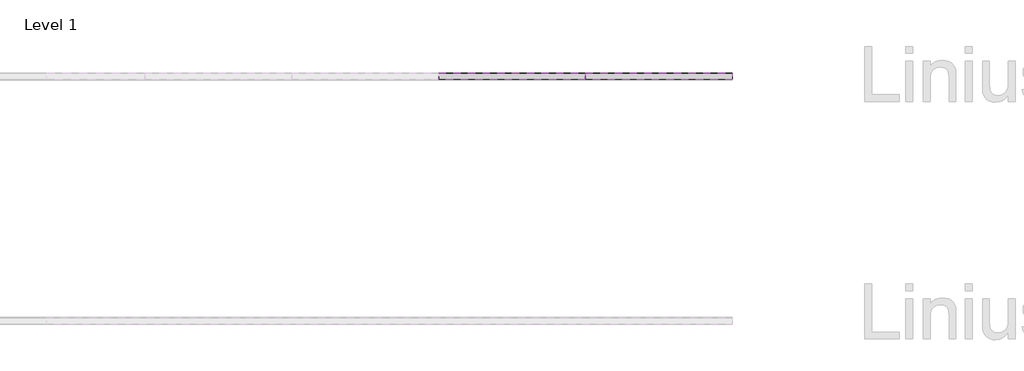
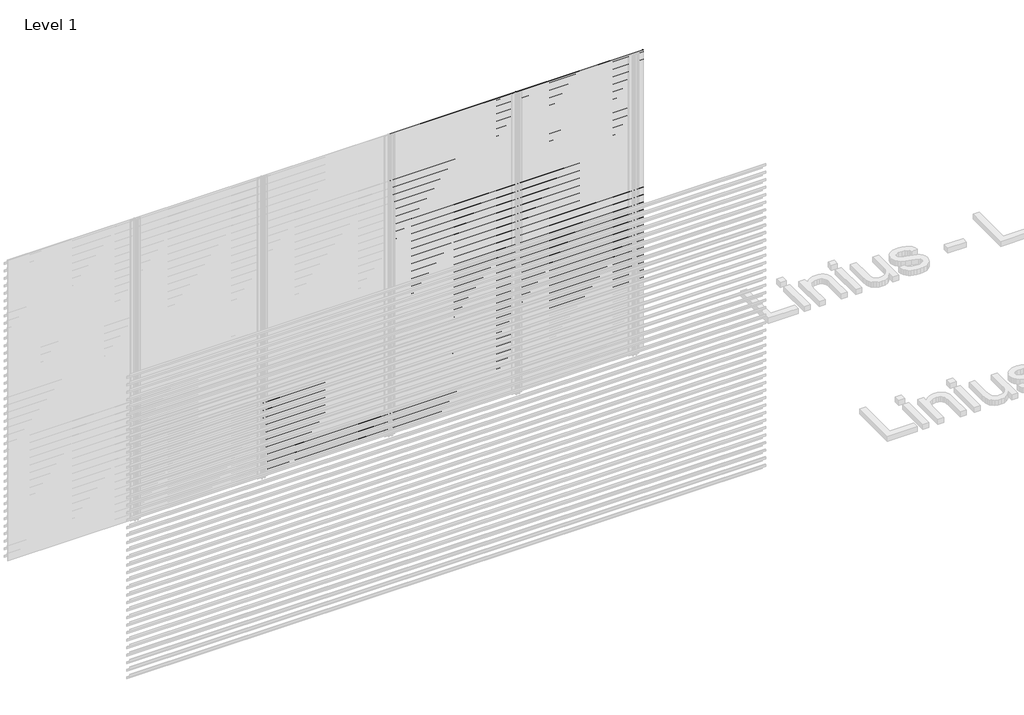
# One storey, part 7 of 55: 84 proxies.
"""IFC4 building model written with IfcOpenShell, lengths in millimetres."""

from ifc_helpers import new_model, si_unit, frame, origin, place, context, project, spatial, polyline, outline, extrude, element, save

model = new_model("IFC4")

# Units and contexts
model_context = context("Model", 3, world=origin())
ifc_project = project(units=[si_unit("LENGTHUNIT", "METRE", prefix="MILLI")], contexts=[model_context])

# Site, building, storey
site = spatial("IfcSite", under=ifc_project)
building = spatial("IfcBuilding", under=site)
storey = spatial("IfcBuildingStorey", under=building, Name="Level 1", Elevation=0.0)

# Proxies
placement = place(None, origin())
element("IfcBuildingElementProxy", 1, Name="Wall Sweeps", at=placement, inside=storey, context=model_context, shape_type="SweptSolid", body=[
    extrude(outline(polyline([(7044.0270068, 918.5), (7044.0270068, 898.5), (7042.7770068, 899.2216933), (7042.7770068, 917.7872415), (6989.0270068, 955.3158044), (6989.0270068, 975.0), (6990.2770068, 975.0), (6990.2770068, 956.0285629), (7044.0270068, 918.5)])), frame((2866.6208097, 0.0, 0.0), z_axis=(1.0, 0.0, 0.0), x_axis=(0.0, 1.0, 0.0)), (0.0, 0.0, 1.0), 1199.9999999),
])
element("IfcBuildingElementProxy", 2, Name="Wall Sweeps", at=placement, inside=storey, context=model_context, shape_type="SweptSolid", body=[
    extrude(outline(polyline([(7044.0270068, 843.5), (7044.0270068, 823.5), (7042.7770068, 824.2216933), (7042.7770068, 842.7872415), (6989.0270068, 880.3158044), (6989.0270068, 900.0), (6990.2770068, 900.0), (6990.2770068, 881.0285629), (7044.0270068, 843.5)])), frame((2866.6208097, 0.0, 0.0), z_axis=(1.0, 0.0, 0.0), x_axis=(0.0, 1.0, 0.0)), (0.0, 0.0, 1.0), 1199.9999999),
])
element("IfcBuildingElementProxy", 3, Name="Wall Sweeps", at=placement, inside=storey, context=model_context, shape_type="SweptSolid", body=[
    extrude(outline(polyline([(7044.0270068, 768.5), (7044.0270068, 748.5), (7042.7770068, 749.2216933), (7042.7770068, 767.7872415), (6989.0270068, 805.3158044), (6989.0270068, 825.0), (6990.2770068, 825.0), (6990.2770068, 806.0285629), (7044.0270068, 768.5)])), frame((2866.6208097, 0.0, 0.0), z_axis=(1.0, 0.0, 0.0), x_axis=(0.0, 1.0, 0.0)), (0.0, 0.0, 1.0), 1199.9999999),
])
element("IfcBuildingElementProxy", 4, Name="Wall Sweeps", at=placement, inside=storey, context=model_context, shape_type="SweptSolid", body=[
    extrude(outline(polyline([(7044.0270068, 693.5), (7044.0270068, 673.5), (7042.7770068, 674.2216933), (7042.7770068, 692.7872415), (6989.0270068, 730.3158044), (6989.0270068, 750.0), (6990.2770068, 750.0), (6990.2770068, 731.0285629), (7044.0270068, 693.5)])), frame((2866.6208097, 0.0, 0.0), z_axis=(1.0, 0.0, 0.0), x_axis=(0.0, 1.0, 0.0)), (0.0, 0.0, 1.0), 1199.9999999),
])
element("IfcBuildingElementProxy", 5, Name="Wall Sweeps", at=placement, inside=storey, context=model_context, shape_type="SweptSolid", body=[
    extrude(outline(polyline([(7044.0270068, 618.5), (7044.0270068, 598.5), (7042.7770068, 599.2216933), (7042.7770068, 617.7872415), (6989.0270068, 655.3158044), (6989.0270068, 675.0), (6990.2770068, 675.0), (6990.2770068, 656.0285629), (7044.0270068, 618.5)])), frame((2866.6208097, 0.0, 0.0), z_axis=(1.0, 0.0, 0.0), x_axis=(0.0, 1.0, 0.0)), (0.0, 0.0, 1.0), 1199.9999999),
])
element("IfcBuildingElementProxy", 6, Name="Wall Sweeps", at=placement, inside=storey, context=model_context, shape_type="SweptSolid", body=[
    extrude(outline(polyline([(7044.0270068, 543.5), (7044.0270068, 523.5), (7042.7770068, 524.2216933), (7042.7770068, 542.7872415), (6989.0270068, 580.3158044), (6989.0270068, 600.0), (6990.2770068, 600.0), (6990.2770068, 581.0285629), (7044.0270068, 543.5)])), frame((2866.6208097, 0.0, 0.0), z_axis=(1.0, 0.0, 0.0), x_axis=(0.0, 1.0, 0.0)), (0.0, 0.0, 1.0), 1199.9999999),
])
element("IfcBuildingElementProxy", 7, Name="Wall Sweeps", at=placement, inside=storey, context=model_context, shape_type="SweptSolid", body=[
    extrude(outline(polyline([(7044.0270068, 468.5), (7044.0270068, 448.5), (7042.7770068, 449.2216933), (7042.7770068, 467.7872415), (6989.0270068, 505.3158044), (6989.0270068, 525.0), (6990.2770068, 525.0), (6990.2770068, 506.0285629), (7044.0270068, 468.5)])), frame((2866.6208097, 0.0, 0.0), z_axis=(1.0, 0.0, 0.0), x_axis=(0.0, 1.0, 0.0)), (0.0, 0.0, 1.0), 1199.9999999),
])
element("IfcBuildingElementProxy", 8, Name="Wall Sweeps", at=placement, inside=storey, context=model_context, shape_type="SweptSolid", body=[
    extrude(outline(polyline([(7044.0270068, 393.5), (7044.0270068, 373.5), (7042.7770068, 374.2216933), (7042.7770068, 392.7872415), (6989.0270068, 430.3158044), (6989.0270068, 450.0), (6990.2770068, 450.0), (6990.2770068, 431.0285629), (7044.0270068, 393.5)])), frame((2866.6208097, 0.0, 0.0), z_axis=(1.0, 0.0, 0.0), x_axis=(0.0, 1.0, 0.0)), (0.0, 0.0, 1.0), 1199.9999999),
])
element("IfcBuildingElementProxy", 9, Name="Wall Sweeps", at=placement, inside=storey, context=model_context, shape_type="SweptSolid", body=[
    extrude(outline(polyline([(7044.0270068, 318.5), (7044.0270068, 298.5), (7042.7770068, 299.2216933), (7042.7770068, 317.7872415), (6989.0270068, 355.3158044), (6989.0270068, 375.0), (6990.2770068, 375.0), (6990.2770068, 356.0285629), (7044.0270068, 318.5)])), frame((2866.6208097, 0.0, 0.0), z_axis=(1.0, 0.0, 0.0), x_axis=(0.0, 1.0, 0.0)), (0.0, 0.0, 1.0), 1199.9999999),
])
element("IfcBuildingElementProxy", 10, Name="Wall Sweeps", at=placement, inside=storey, context=model_context, shape_type="SweptSolid", body=[
    extrude(outline(polyline([(7044.0270068, 243.5), (7044.0270068, 223.5), (7042.7770068, 224.2216933), (7042.7770068, 242.7872415), (6989.0270068, 280.3158044), (6989.0270068, 300.0), (6990.2770068, 300.0), (6990.2770068, 281.0285629), (7044.0270068, 243.5)])), frame((2866.6208097, 0.0, 0.0), z_axis=(1.0, 0.0, 0.0), x_axis=(0.0, 1.0, 0.0)), (0.0, 0.0, 1.0), 1199.9999999),
])
element("IfcBuildingElementProxy", 11, Name="Wall Sweeps", at=placement, inside=storey, context=model_context, shape_type="SweptSolid", body=[
    extrude(outline(polyline([(7044.0270068, 168.5), (7044.0270068, 148.5), (7042.7770068, 149.2216933), (7042.7770068, 167.7872415), (6989.0270068, 205.3158044), (6989.0270068, 225.0), (6990.2770068, 225.0), (6990.2770068, 206.0285629), (7044.0270068, 168.5)])), frame((2866.6208097, 0.0, 0.0), z_axis=(1.0, 0.0, 0.0), x_axis=(0.0, 1.0, 0.0)), (0.0, 0.0, 1.0), 1199.9999999),
])
element("IfcBuildingElementProxy", 12, Name="Wall Sweeps", at=placement, inside=storey, context=model_context, shape_type="SweptSolid", body=[
    extrude(outline(polyline([(7044.0270068, 93.5), (7044.0270068, 73.5), (7042.7770068, 74.2216933), (7042.7770068, 92.7872415), (6989.0270068, 130.3158044), (6989.0270068, 150.0), (6990.2770068, 150.0), (6990.2770068, 131.0285629), (7044.0270068, 93.5)])), frame((2866.6208097, 0.0, 0.0), z_axis=(1.0, 0.0, 0.0), x_axis=(0.0, 1.0, 0.0)), (0.0, 0.0, 1.0), 1199.9999999),
])
element("IfcBuildingElementProxy", 13, Name="Wall Sweeps", at=placement, inside=storey, context=model_context, shape_type="SweptSolid", body=[
    extrude(outline(polyline([(7044.0270068, 18.5), (7044.0270068, -1.5), (7042.7770068, -0.7783067), (7042.7770068, 17.7872415), (6989.0270068, 55.3158044), (6989.0270068, 75.0), (6990.2770068, 75.0), (6990.2770068, 56.0285629), (7044.0270068, 18.5)])), frame((2866.6208097, 0.0, 0.0), z_axis=(1.0, 0.0, 0.0), x_axis=(0.0, 1.0, 0.0)), (0.0, 0.0, 1.0), 1199.9999999),
])
element("IfcBuildingElementProxy", 14, Name="Wall Sweeps", at=placement, inside=storey, context=model_context, shape_type="SweptSolid", body=[
    extrude(outline(polyline([(7044.0270068, 2943.5), (7044.0270068, 2923.5), (7042.7770068, 2924.2216933), (7042.7770068, 2942.7872415), (6989.0270068, 2980.3158044), (6989.0270068, 3000.0), (6990.2770068, 3000.0), (6990.2770068, 2981.0285629), (7044.0270068, 2943.5)])), frame((5266.6208095, 0.0, 0.0), z_axis=(1.0, 0.0, 0.0), x_axis=(0.0, 1.0, 0.0)), (0.0, 0.0, 1.0), 1200.0000002),
])
element("IfcBuildingElementProxy", 15, Name="Wall Sweeps", at=placement, inside=storey, context=model_context, shape_type="SweptSolid", body=[
    extrude(outline(polyline([(7044.0270068, 2868.5), (7044.0270068, 2848.5), (7042.7770068, 2849.2216933), (7042.7770068, 2867.7872415), (6989.0270068, 2905.3158044), (6989.0270068, 2925.0), (6990.2770068, 2925.0), (6990.2770068, 2906.0285629), (7044.0270068, 2868.5)])), frame((5266.6208095, 0.0, 0.0), z_axis=(1.0, 0.0, 0.0), x_axis=(0.0, 1.0, 0.0)), (0.0, 0.0, 1.0), 1200.0000002),
])
element("IfcBuildingElementProxy", 16, Name="Wall Sweeps", at=placement, inside=storey, context=model_context, shape_type="SweptSolid", body=[
    extrude(outline(polyline([(7044.0270068, 2793.5), (7044.0270068, 2773.5), (7042.7770068, 2774.2216933), (7042.7770068, 2792.7872415), (6989.0270068, 2830.3158044), (6989.0270068, 2850.0), (6990.2770068, 2850.0), (6990.2770068, 2831.0285629), (7044.0270068, 2793.5)])), frame((5266.6208095, 0.0, 0.0), z_axis=(1.0, 0.0, 0.0), x_axis=(0.0, 1.0, 0.0)), (0.0, 0.0, 1.0), 1200.0000002),
])
element("IfcBuildingElementProxy", 17, Name="Wall Sweeps", at=placement, inside=storey, context=model_context, shape_type="SweptSolid", body=[
    extrude(outline(polyline([(7044.0270068, 2718.5), (7044.0270068, 2698.5), (7042.7770068, 2699.2216933), (7042.7770068, 2717.7872415), (6989.0270068, 2755.3158044), (6989.0270068, 2775.0), (6990.2770068, 2775.0), (6990.2770068, 2756.0285629), (7044.0270068, 2718.5)])), frame((5266.6208095, 0.0, 0.0), z_axis=(1.0, 0.0, 0.0), x_axis=(0.0, 1.0, 0.0)), (0.0, 0.0, 1.0), 1200.0000002),
])
element("IfcBuildingElementProxy", 18, Name="Wall Sweeps", at=placement, inside=storey, context=model_context, shape_type="SweptSolid", body=[
    extrude(outline(polyline([(7044.0270068, 2643.5), (7044.0270068, 2623.5), (7042.7770068, 2624.2216933), (7042.7770068, 2642.7872415), (6989.0270068, 2680.3158044), (6989.0270068, 2700.0), (6990.2770068, 2700.0), (6990.2770068, 2681.0285629), (7044.0270068, 2643.5)])), frame((5266.6208095, 0.0, 0.0), z_axis=(1.0, 0.0, 0.0), x_axis=(0.0, 1.0, 0.0)), (0.0, 0.0, 1.0), 1200.0000002),
])
element("IfcBuildingElementProxy", 19, Name="Wall Sweeps", at=placement, inside=storey, context=model_context, shape_type="SweptSolid", body=[
    extrude(outline(polyline([(7044.0270068, 2568.5), (7044.0270068, 2548.5), (7042.7770068, 2549.2216933), (7042.7770068, 2567.7872415), (6989.0270068, 2605.3158044), (6989.0270068, 2625.0), (6990.2770068, 2625.0), (6990.2770068, 2606.0285629), (7044.0270068, 2568.5)])), frame((5266.6208095, 0.0, 0.0), z_axis=(1.0, 0.0, 0.0), x_axis=(0.0, 1.0, 0.0)), (0.0, 0.0, 1.0), 1200.0000002),
])
element("IfcBuildingElementProxy", 20, Name="Wall Sweeps", at=placement, inside=storey, context=model_context, shape_type="SweptSolid", body=[
    extrude(outline(polyline([(7044.0270068, 2493.5), (7044.0270068, 2473.5), (7042.7770068, 2474.2216933), (7042.7770068, 2492.7872415), (6989.0270068, 2530.3158044), (6989.0270068, 2550.0), (6990.2770068, 2550.0), (6990.2770068, 2531.0285629), (7044.0270068, 2493.5)])), frame((5266.6208095, 0.0, 0.0), z_axis=(1.0, 0.0, 0.0), x_axis=(0.0, 1.0, 0.0)), (0.0, 0.0, 1.0), 1200.0000002),
])
element("IfcBuildingElementProxy", 21, Name="Wall Sweeps", at=placement, inside=storey, context=model_context, shape_type="SweptSolid", body=[
    extrude(outline(polyline([(7044.0270068, 2418.5), (7044.0270068, 2398.5), (7042.7770068, 2399.2216933), (7042.7770068, 2417.7872415), (6989.0270068, 2455.3158044), (6989.0270068, 2475.0), (6990.2770068, 2475.0), (6990.2770068, 2456.0285629), (7044.0270068, 2418.5)])), frame((5266.6208095, 0.0, 0.0), z_axis=(1.0, 0.0, 0.0), x_axis=(0.0, 1.0, 0.0)), (0.0, 0.0, 1.0), 1200.0000002),
])
element("IfcBuildingElementProxy", 22, Name="Wall Sweeps", at=placement, inside=storey, context=model_context, shape_type="SweptSolid", body=[
    extrude(outline(polyline([(7044.0270068, 2343.5), (7044.0270068, 2323.5), (7042.7770068, 2324.2216933), (7042.7770068, 2342.7872415), (6989.0270068, 2380.3158044), (6989.0270068, 2400.0), (6990.2770068, 2400.0), (6990.2770068, 2381.0285629), (7044.0270068, 2343.5)])), frame((5266.6208095, 0.0, 0.0), z_axis=(1.0, 0.0, 0.0), x_axis=(0.0, 1.0, 0.0)), (0.0, 0.0, 1.0), 1200.0000002),
])
element("IfcBuildingElementProxy", 23, Name="Wall Sweeps", at=placement, inside=storey, context=model_context, shape_type="SweptSolid", body=[
    extrude(outline(polyline([(7044.0270068, 2268.5), (7044.0270068, 2248.5), (7042.7770068, 2249.2216933), (7042.7770068, 2267.7872415), (6989.0270068, 2305.3158044), (6989.0270068, 2325.0), (6990.2770068, 2325.0), (6990.2770068, 2306.0285629), (7044.0270068, 2268.5)])), frame((5266.6208095, 0.0, 0.0), z_axis=(1.0, 0.0, 0.0), x_axis=(0.0, 1.0, 0.0)), (0.0, 0.0, 1.0), 1200.0000002),
])
element("IfcBuildingElementProxy", 24, Name="Wall Sweeps", at=placement, inside=storey, context=model_context, shape_type="SweptSolid", body=[
    extrude(outline(polyline([(7044.0270068, 2193.5), (7044.0270068, 2173.5), (7042.7770068, 2174.2216933), (7042.7770068, 2192.7872415), (6989.0270068, 2230.3158044), (6989.0270068, 2250.0), (6990.2770068, 2250.0), (6990.2770068, 2231.0285629), (7044.0270068, 2193.5)])), frame((5266.6208095, 0.0, 0.0), z_axis=(1.0, 0.0, 0.0), x_axis=(0.0, 1.0, 0.0)), (0.0, 0.0, 1.0), 1200.0000002),
])
element("IfcBuildingElementProxy", 25, Name="Wall Sweeps", at=placement, inside=storey, context=model_context, shape_type="SweptSolid", body=[
    extrude(outline(polyline([(7044.0270068, 2118.5), (7044.0270068, 2098.5), (7042.7770068, 2099.2216933), (7042.7770068, 2117.7872415), (6989.0270068, 2155.3158044), (6989.0270068, 2175.0), (6990.2770068, 2175.0), (6990.2770068, 2156.0285629), (7044.0270068, 2118.5)])), frame((5266.6208095, 0.0, 0.0), z_axis=(1.0, 0.0, 0.0), x_axis=(0.0, 1.0, 0.0)), (0.0, 0.0, 1.0), 1200.0000002),
])
element("IfcBuildingElementProxy", 26, Name="Wall Sweeps", at=placement, inside=storey, context=model_context, shape_type="SweptSolid", body=[
    extrude(outline(polyline([(7044.0270068, 2043.5), (7044.0270068, 2023.5), (7042.7770068, 2024.2216933), (7042.7770068, 2042.7872415), (6989.0270068, 2080.3158044), (6989.0270068, 2100.0), (6990.2770068, 2100.0), (6990.2770068, 2081.0285629), (7044.0270068, 2043.5)])), frame((5266.6208095, 0.0, 0.0), z_axis=(1.0, 0.0, 0.0), x_axis=(0.0, 1.0, 0.0)), (0.0, 0.0, 1.0), 1200.0000002),
])
element("IfcBuildingElementProxy", 27, Name="Wall Sweeps", at=placement, inside=storey, context=model_context, shape_type="SweptSolid", body=[
    extrude(outline(polyline([(7044.0270068, 1968.5), (7044.0270068, 1948.5), (7042.7770068, 1949.2216933), (7042.7770068, 1967.7872415), (6989.0270068, 2005.3158044), (6989.0270068, 2025.0), (6990.2770068, 2025.0), (6990.2770068, 2006.0285629), (7044.0270068, 1968.5)])), frame((5266.6208095, 0.0, 0.0), z_axis=(1.0, 0.0, 0.0), x_axis=(0.0, 1.0, 0.0)), (0.0, 0.0, 1.0), 1200.0000002),
])
element("IfcBuildingElementProxy", 28, Name="Wall Sweeps", at=placement, inside=storey, context=model_context, shape_type="SweptSolid", body=[
    extrude(outline(polyline([(7044.0270068, 1893.5), (7044.0270068, 1873.5), (7042.7770068, 1874.2216933), (7042.7770068, 1892.7872415), (6989.0270068, 1930.3158044), (6989.0270068, 1950.0), (6990.2770068, 1950.0), (6990.2770068, 1931.0285629), (7044.0270068, 1893.5)])), frame((5266.6208095, 0.0, 0.0), z_axis=(1.0, 0.0, 0.0), x_axis=(0.0, 1.0, 0.0)), (0.0, 0.0, 1.0), 1200.0000002),
])
element("IfcBuildingElementProxy", 29, Name="Wall Sweeps", at=placement, inside=storey, context=model_context, shape_type="SweptSolid", body=[
    extrude(outline(polyline([(7044.0270068, 1818.5), (7044.0270068, 1798.5), (7042.7770068, 1799.2216933), (7042.7770068, 1817.7872415), (6989.0270068, 1855.3158044), (6989.0270068, 1875.0), (6990.2770068, 1875.0), (6990.2770068, 1856.0285629), (7044.0270068, 1818.5)])), frame((5266.6208095, 0.0, 0.0), z_axis=(1.0, 0.0, 0.0), x_axis=(0.0, 1.0, 0.0)), (0.0, 0.0, 1.0), 1200.0000002),
])
element("IfcBuildingElementProxy", 30, Name="Wall Sweeps", at=placement, inside=storey, context=model_context, shape_type="SweptSolid", body=[
    extrude(outline(polyline([(7044.0270068, 1743.5), (7044.0270068, 1723.5), (7042.7770068, 1724.2216933), (7042.7770068, 1742.7872415), (6989.0270068, 1780.3158044), (6989.0270068, 1800.0), (6990.2770068, 1800.0), (6990.2770068, 1781.0285629), (7044.0270068, 1743.5)])), frame((5266.6208095, 0.0, 0.0), z_axis=(1.0, 0.0, 0.0), x_axis=(0.0, 1.0, 0.0)), (0.0, 0.0, 1.0), 1200.0000002),
])
element("IfcBuildingElementProxy", 31, Name="Wall Sweeps", at=placement, inside=storey, context=model_context, shape_type="SweptSolid", body=[
    extrude(outline(polyline([(7044.0270068, 1668.5), (7044.0270068, 1648.5), (7042.7770068, 1649.2216933), (7042.7770068, 1667.7872415), (6989.0270068, 1705.3158044), (6989.0270068, 1725.0), (6990.2770068, 1725.0), (6990.2770068, 1706.0285629), (7044.0270068, 1668.5)])), frame((5266.6208095, 0.0, 0.0), z_axis=(1.0, 0.0, 0.0), x_axis=(0.0, 1.0, 0.0)), (0.0, 0.0, 1.0), 1200.0000002),
])
element("IfcBuildingElementProxy", 32, Name="Wall Sweeps", at=placement, inside=storey, context=model_context, shape_type="SweptSolid", body=[
    extrude(outline(polyline([(7044.0270068, 1593.5), (7044.0270068, 1573.5), (7042.7770068, 1574.2216933), (7042.7770068, 1592.7872415), (6989.0270068, 1630.3158044), (6989.0270068, 1650.0), (6990.2770068, 1650.0), (6990.2770068, 1631.0285629), (7044.0270068, 1593.5)])), frame((5266.6208095, 0.0, 0.0), z_axis=(1.0, 0.0, 0.0), x_axis=(0.0, 1.0, 0.0)), (0.0, 0.0, 1.0), 1200.0000002),
])
element("IfcBuildingElementProxy", 33, Name="Wall Sweeps", at=placement, inside=storey, context=model_context, shape_type="SweptSolid", body=[
    extrude(outline(polyline([(7044.0270068, 1518.5), (7044.0270068, 1498.5), (7042.7770068, 1499.2216933), (7042.7770068, 1517.7872415), (6989.0270068, 1555.3158044), (6989.0270068, 1575.0), (6990.2770068, 1575.0), (6990.2770068, 1556.0285629), (7044.0270068, 1518.5)])), frame((5266.6208095, 0.0, 0.0), z_axis=(1.0, 0.0, 0.0), x_axis=(0.0, 1.0, 0.0)), (0.0, 0.0, 1.0), 1200.0000002),
])
element("IfcBuildingElementProxy", 34, Name="Wall Sweeps", at=placement, inside=storey, context=model_context, shape_type="SweptSolid", body=[
    extrude(outline(polyline([(7044.0270068, 1443.5), (7044.0270068, 1423.5), (7042.7770068, 1424.2216933), (7042.7770068, 1442.7872415), (6989.0270068, 1480.3158044), (6989.0270068, 1500.0), (6990.2770068, 1500.0), (6990.2770068, 1481.0285629), (7044.0270068, 1443.5)])), frame((5266.6208095, 0.0, 0.0), z_axis=(1.0, 0.0, 0.0), x_axis=(0.0, 1.0, 0.0)), (0.0, 0.0, 1.0), 1200.0000002),
])
element("IfcBuildingElementProxy", 35, Name="Wall Sweeps", at=placement, inside=storey, context=model_context, shape_type="SweptSolid", body=[
    extrude(outline(polyline([(7044.0270068, 1368.5), (7044.0270068, 1348.5), (7042.7770068, 1349.2216933), (7042.7770068, 1367.7872415), (6989.0270068, 1405.3158044), (6989.0270068, 1425.0), (6990.2770068, 1425.0), (6990.2770068, 1406.0285629), (7044.0270068, 1368.5)])), frame((5266.6208095, 0.0, 0.0), z_axis=(1.0, 0.0, 0.0), x_axis=(0.0, 1.0, 0.0)), (0.0, 0.0, 1.0), 1200.0000002),
])
element("IfcBuildingElementProxy", 36, Name="Wall Sweeps", at=placement, inside=storey, context=model_context, shape_type="SweptSolid", body=[
    extrude(outline(polyline([(7044.0270068, 1293.5), (7044.0270068, 1273.5), (7042.7770068, 1274.2216933), (7042.7770068, 1292.7872415), (6989.0270068, 1330.3158044), (6989.0270068, 1350.0), (6990.2770068, 1350.0), (6990.2770068, 1331.0285629), (7044.0270068, 1293.5)])), frame((5266.6208095, 0.0, 0.0), z_axis=(1.0, 0.0, 0.0), x_axis=(0.0, 1.0, 0.0)), (0.0, 0.0, 1.0), 1200.0000002),
])
element("IfcBuildingElementProxy", 37, Name="Wall Sweeps", at=placement, inside=storey, context=model_context, shape_type="SweptSolid", body=[
    extrude(outline(polyline([(7044.0270068, 1218.5), (7044.0270068, 1198.5), (7042.7770068, 1199.2216933), (7042.7770068, 1217.7872415), (6989.0270068, 1255.3158044), (6989.0270068, 1275.0), (6990.2770068, 1275.0), (6990.2770068, 1256.0285629), (7044.0270068, 1218.5)])), frame((5266.6208095, 0.0, 0.0), z_axis=(1.0, 0.0, 0.0), x_axis=(0.0, 1.0, 0.0)), (0.0, 0.0, 1.0), 1200.0000002),
])
element("IfcBuildingElementProxy", 38, Name="Wall Sweeps", at=placement, inside=storey, context=model_context, shape_type="SweptSolid", body=[
    extrude(outline(polyline([(7044.0270068, 1143.5), (7044.0270068, 1123.5), (7042.7770068, 1124.2216933), (7042.7770068, 1142.7872415), (6989.0270068, 1180.3158044), (6989.0270068, 1200.0), (6990.2770068, 1200.0), (6990.2770068, 1181.0285629), (7044.0270068, 1143.5)])), frame((5266.6208095, 0.0, 0.0), z_axis=(1.0, 0.0, 0.0), x_axis=(0.0, 1.0, 0.0)), (0.0, 0.0, 1.0), 1200.0000002),
])
element("IfcBuildingElementProxy", 39, Name="Wall Sweeps", at=placement, inside=storey, context=model_context, shape_type="SweptSolid", body=[
    extrude(outline(polyline([(7044.0270068, 1068.5), (7044.0270068, 1048.5), (7042.7770068, 1049.2216933), (7042.7770068, 1067.7872415), (6989.0270068, 1105.3158044), (6989.0270068, 1125.0), (6990.2770068, 1125.0), (6990.2770068, 1106.0285629), (7044.0270068, 1068.5)])), frame((5266.6208095, 0.0, 0.0), z_axis=(1.0, 0.0, 0.0), x_axis=(0.0, 1.0, 0.0)), (0.0, 0.0, 1.0), 1200.0000002),
])
element("IfcBuildingElementProxy", 40, Name="Wall Sweeps", at=placement, inside=storey, context=model_context, shape_type="SweptSolid", body=[
    extrude(outline(polyline([(7044.0270068, 993.5), (7044.0270068, 973.5), (7042.7770068, 974.2216933), (7042.7770068, 992.7872415), (6989.0270068, 1030.3158044), (6989.0270068, 1050.0), (6990.2770068, 1050.0), (6990.2770068, 1031.0285629), (7044.0270068, 993.5)])), frame((5266.6208095, 0.0, 0.0), z_axis=(1.0, 0.0, 0.0), x_axis=(0.0, 1.0, 0.0)), (0.0, 0.0, 1.0), 1200.0000002),
])
element("IfcBuildingElementProxy", 41, Name="Wall Sweeps", at=placement, inside=storey, context=model_context, shape_type="SweptSolid", body=[
    extrude(outline(polyline([(7044.0270068, 918.5), (7044.0270068, 898.5), (7042.7770068, 899.2216933), (7042.7770068, 917.7872415), (6989.0270068, 955.3158044), (6989.0270068, 975.0), (6990.2770068, 975.0), (6990.2770068, 956.0285629), (7044.0270068, 918.5)])), frame((5266.6208095, 0.0, 0.0), z_axis=(1.0, 0.0, 0.0), x_axis=(0.0, 1.0, 0.0)), (0.0, 0.0, 1.0), 1200.0000002),
])
element("IfcBuildingElementProxy", 42, Name="Wall Sweeps", at=placement, inside=storey, context=model_context, shape_type="SweptSolid", body=[
    extrude(outline(polyline([(7044.0270068, 843.5), (7044.0270068, 823.5), (7042.7770068, 824.2216933), (7042.7770068, 842.7872415), (6989.0270068, 880.3158044), (6989.0270068, 900.0), (6990.2770068, 900.0), (6990.2770068, 881.0285629), (7044.0270068, 843.5)])), frame((5266.6208095, 0.0, 0.0), z_axis=(1.0, 0.0, 0.0), x_axis=(0.0, 1.0, 0.0)), (0.0, 0.0, 1.0), 1200.0000002),
])
element("IfcBuildingElementProxy", 43, Name="Wall Sweeps", at=placement, inside=storey, context=model_context, shape_type="SweptSolid", body=[
    extrude(outline(polyline([(7044.0270068, 768.5), (7044.0270068, 748.5), (7042.7770068, 749.2216933), (7042.7770068, 767.7872415), (6989.0270068, 805.3158044), (6989.0270068, 825.0), (6990.2770068, 825.0), (6990.2770068, 806.0285629), (7044.0270068, 768.5)])), frame((5266.6208095, 0.0, 0.0), z_axis=(1.0, 0.0, 0.0), x_axis=(0.0, 1.0, 0.0)), (0.0, 0.0, 1.0), 1200.0000002),
])
element("IfcBuildingElementProxy", 44, Name="Wall Sweeps", at=placement, inside=storey, context=model_context, shape_type="SweptSolid", body=[
    extrude(outline(polyline([(7044.0270068, 693.5), (7044.0270068, 673.5), (7042.7770068, 674.2216933), (7042.7770068, 692.7872415), (6989.0270068, 730.3158044), (6989.0270068, 750.0), (6990.2770068, 750.0), (6990.2770068, 731.0285629), (7044.0270068, 693.5)])), frame((5266.6208095, 0.0, 0.0), z_axis=(1.0, 0.0, 0.0), x_axis=(0.0, 1.0, 0.0)), (0.0, 0.0, 1.0), 1200.0000002),
])
element("IfcBuildingElementProxy", 45, Name="Wall Sweeps", at=placement, inside=storey, context=model_context, shape_type="SweptSolid", body=[
    extrude(outline(polyline([(7044.0270068, 2943.5), (7044.0270068, 2923.5), (7042.7770068, 2924.2216933), (7042.7770068, 2942.7872415), (6989.0270068, 2980.3158044), (6989.0270068, 3000.0), (6990.2770068, 3000.0), (6990.2770068, 2981.0285629), (7044.0270068, 2943.5)])), frame((4066.6208096, 0.0, 0.0), z_axis=(1.0, 0.0, 0.0), x_axis=(0.0, 1.0, 0.0)), (0.0, 0.0, 1.0), 1199.9999999),
])
element("IfcBuildingElementProxy", 46, Name="Wall Sweeps", at=placement, inside=storey, context=model_context, shape_type="SweptSolid", body=[
    extrude(outline(polyline([(7044.0270068, 2868.5), (7044.0270068, 2848.5), (7042.7770068, 2849.2216933), (7042.7770068, 2867.7872415), (6989.0270068, 2905.3158044), (6989.0270068, 2925.0), (6990.2770068, 2925.0), (6990.2770068, 2906.0285629), (7044.0270068, 2868.5)])), frame((4066.6208096, 0.0, 0.0), z_axis=(1.0, 0.0, 0.0), x_axis=(0.0, 1.0, 0.0)), (0.0, 0.0, 1.0), 1199.9999999),
])
element("IfcBuildingElementProxy", 47, Name="Wall Sweeps", at=placement, inside=storey, context=model_context, shape_type="SweptSolid", body=[
    extrude(outline(polyline([(7044.0270068, 2793.5), (7044.0270068, 2773.5), (7042.7770068, 2774.2216933), (7042.7770068, 2792.7872415), (6989.0270068, 2830.3158044), (6989.0270068, 2850.0), (6990.2770068, 2850.0), (6990.2770068, 2831.0285629), (7044.0270068, 2793.5)])), frame((4066.6208096, 0.0, 0.0), z_axis=(1.0, 0.0, 0.0), x_axis=(0.0, 1.0, 0.0)), (0.0, 0.0, 1.0), 1199.9999999),
])
element("IfcBuildingElementProxy", 48, Name="Wall Sweeps", at=placement, inside=storey, context=model_context, shape_type="SweptSolid", body=[
    extrude(outline(polyline([(7044.0270068, 2718.5), (7044.0270068, 2698.5), (7042.7770068, 2699.2216933), (7042.7770068, 2717.7872415), (6989.0270068, 2755.3158044), (6989.0270068, 2775.0), (6990.2770068, 2775.0), (6990.2770068, 2756.0285629), (7044.0270068, 2718.5)])), frame((4066.6208096, 0.0, 0.0), z_axis=(1.0, 0.0, 0.0), x_axis=(0.0, 1.0, 0.0)), (0.0, 0.0, 1.0), 1199.9999999),
])
element("IfcBuildingElementProxy", 49, Name="Wall Sweeps", at=placement, inside=storey, context=model_context, shape_type="SweptSolid", body=[
    extrude(outline(polyline([(7044.0270068, 2643.5), (7044.0270068, 2623.5), (7042.7770068, 2624.2216933), (7042.7770068, 2642.7872415), (6989.0270068, 2680.3158044), (6989.0270068, 2700.0), (6990.2770068, 2700.0), (6990.2770068, 2681.0285629), (7044.0270068, 2643.5)])), frame((4066.6208096, 0.0, 0.0), z_axis=(1.0, 0.0, 0.0), x_axis=(0.0, 1.0, 0.0)), (0.0, 0.0, 1.0), 1199.9999999),
])
element("IfcBuildingElementProxy", 50, Name="Wall Sweeps", at=placement, inside=storey, context=model_context, shape_type="SweptSolid", body=[
    extrude(outline(polyline([(7044.0270068, 2568.5), (7044.0270068, 2548.5), (7042.7770068, 2549.2216933), (7042.7770068, 2567.7872415), (6989.0270068, 2605.3158044), (6989.0270068, 2625.0), (6990.2770068, 2625.0), (6990.2770068, 2606.0285629), (7044.0270068, 2568.5)])), frame((4066.6208096, 0.0, 0.0), z_axis=(1.0, 0.0, 0.0), x_axis=(0.0, 1.0, 0.0)), (0.0, 0.0, 1.0), 1199.9999999),
])
element("IfcBuildingElementProxy", 51, Name="Wall Sweeps", at=placement, inside=storey, context=model_context, shape_type="SweptSolid", body=[
    extrude(outline(polyline([(7044.0270068, 2493.5), (7044.0270068, 2473.5), (7042.7770068, 2474.2216933), (7042.7770068, 2492.7872415), (6989.0270068, 2530.3158044), (6989.0270068, 2550.0), (6990.2770068, 2550.0), (6990.2770068, 2531.0285629), (7044.0270068, 2493.5)])), frame((4066.6208096, 0.0, 0.0), z_axis=(1.0, 0.0, 0.0), x_axis=(0.0, 1.0, 0.0)), (0.0, 0.0, 1.0), 1199.9999999),
])
element("IfcBuildingElementProxy", 52, Name="Wall Sweeps", at=placement, inside=storey, context=model_context, shape_type="SweptSolid", body=[
    extrude(outline(polyline([(7044.0270068, 2418.5), (7044.0270068, 2398.5), (7042.7770068, 2399.2216933), (7042.7770068, 2417.7872415), (6989.0270068, 2455.3158044), (6989.0270068, 2475.0), (6990.2770068, 2475.0), (6990.2770068, 2456.0285629), (7044.0270068, 2418.5)])), frame((4066.6208096, 0.0, 0.0), z_axis=(1.0, 0.0, 0.0), x_axis=(0.0, 1.0, 0.0)), (0.0, 0.0, 1.0), 1199.9999999),
])
element("IfcBuildingElementProxy", 53, Name="Wall Sweeps", at=placement, inside=storey, context=model_context, shape_type="SweptSolid", body=[
    extrude(outline(polyline([(7044.0270068, 2343.5), (7044.0270068, 2323.5), (7042.7770068, 2324.2216933), (7042.7770068, 2342.7872415), (6989.0270068, 2380.3158044), (6989.0270068, 2400.0), (6990.2770068, 2400.0), (6990.2770068, 2381.0285629), (7044.0270068, 2343.5)])), frame((4066.6208096, 0.0, 0.0), z_axis=(1.0, 0.0, 0.0), x_axis=(0.0, 1.0, 0.0)), (0.0, 0.0, 1.0), 1199.9999999),
])
element("IfcBuildingElementProxy", 54, Name="Wall Sweeps", at=placement, inside=storey, context=model_context, shape_type="SweptSolid", body=[
    extrude(outline(polyline([(7044.0270068, 2268.5), (7044.0270068, 2248.5), (7042.7770068, 2249.2216933), (7042.7770068, 2267.7872415), (6989.0270068, 2305.3158044), (6989.0270068, 2325.0), (6990.2770068, 2325.0), (6990.2770068, 2306.0285629), (7044.0270068, 2268.5)])), frame((4066.6208096, 0.0, 0.0), z_axis=(1.0, 0.0, 0.0), x_axis=(0.0, 1.0, 0.0)), (0.0, 0.0, 1.0), 1199.9999999),
])
element("IfcBuildingElementProxy", 55, Name="Wall Sweeps", at=placement, inside=storey, context=model_context, shape_type="SweptSolid", body=[
    extrude(outline(polyline([(7044.0270068, 2193.5), (7044.0270068, 2173.5), (7042.7770068, 2174.2216933), (7042.7770068, 2192.7872415), (6989.0270068, 2230.3158044), (6989.0270068, 2250.0), (6990.2770068, 2250.0), (6990.2770068, 2231.0285629), (7044.0270068, 2193.5)])), frame((4066.6208096, 0.0, 0.0), z_axis=(1.0, 0.0, 0.0), x_axis=(0.0, 1.0, 0.0)), (0.0, 0.0, 1.0), 1199.9999999),
])
element("IfcBuildingElementProxy", 56, Name="Wall Sweeps", at=placement, inside=storey, context=model_context, shape_type="SweptSolid", body=[
    extrude(outline(polyline([(7044.0270068, 2118.5), (7044.0270068, 2098.5), (7042.7770068, 2099.2216933), (7042.7770068, 2117.7872415), (6989.0270068, 2155.3158044), (6989.0270068, 2175.0), (6990.2770068, 2175.0), (6990.2770068, 2156.0285629), (7044.0270068, 2118.5)])), frame((4066.6208096, 0.0, 0.0), z_axis=(1.0, 0.0, 0.0), x_axis=(0.0, 1.0, 0.0)), (0.0, 0.0, 1.0), 1199.9999999),
])
element("IfcBuildingElementProxy", 57, Name="Wall Sweeps", at=placement, inside=storey, context=model_context, shape_type="SweptSolid", body=[
    extrude(outline(polyline([(7044.0270068, 2043.5), (7044.0270068, 2023.5), (7042.7770068, 2024.2216933), (7042.7770068, 2042.7872415), (6989.0270068, 2080.3158044), (6989.0270068, 2100.0), (6990.2770068, 2100.0), (6990.2770068, 2081.0285629), (7044.0270068, 2043.5)])), frame((4066.6208096, 0.0, 0.0), z_axis=(1.0, 0.0, 0.0), x_axis=(0.0, 1.0, 0.0)), (0.0, 0.0, 1.0), 1199.9999999),
])
element("IfcBuildingElementProxy", 58, Name="Wall Sweeps", at=placement, inside=storey, context=model_context, shape_type="SweptSolid", body=[
    extrude(outline(polyline([(7044.0270068, 1968.5), (7044.0270068, 1948.5), (7042.7770068, 1949.2216933), (7042.7770068, 1967.7872415), (6989.0270068, 2005.3158044), (6989.0270068, 2025.0), (6990.2770068, 2025.0), (6990.2770068, 2006.0285629), (7044.0270068, 1968.5)])), frame((4066.6208096, 0.0, 0.0), z_axis=(1.0, 0.0, 0.0), x_axis=(0.0, 1.0, 0.0)), (0.0, 0.0, 1.0), 1199.9999999),
])
element("IfcBuildingElementProxy", 59, Name="Wall Sweeps", at=placement, inside=storey, context=model_context, shape_type="SweptSolid", body=[
    extrude(outline(polyline([(7044.0270068, 1893.5), (7044.0270068, 1873.5), (7042.7770068, 1874.2216933), (7042.7770068, 1892.7872415), (6989.0270068, 1930.3158044), (6989.0270068, 1950.0), (6990.2770068, 1950.0), (6990.2770068, 1931.0285629), (7044.0270068, 1893.5)])), frame((4066.6208096, 0.0, 0.0), z_axis=(1.0, 0.0, 0.0), x_axis=(0.0, 1.0, 0.0)), (0.0, 0.0, 1.0), 1199.9999999),
])
element("IfcBuildingElementProxy", 60, Name="Wall Sweeps", at=placement, inside=storey, context=model_context, shape_type="SweptSolid", body=[
    extrude(outline(polyline([(7044.0270068, 1818.5), (7044.0270068, 1798.5), (7042.7770068, 1799.2216933), (7042.7770068, 1817.7872415), (6989.0270068, 1855.3158044), (6989.0270068, 1875.0), (6990.2770068, 1875.0), (6990.2770068, 1856.0285629), (7044.0270068, 1818.5)])), frame((4066.6208096, 0.0, 0.0), z_axis=(1.0, 0.0, 0.0), x_axis=(0.0, 1.0, 0.0)), (0.0, 0.0, 1.0), 1199.9999999),
])
element("IfcBuildingElementProxy", 61, Name="Wall Sweeps", at=placement, inside=storey, context=model_context, shape_type="SweptSolid", body=[
    extrude(outline(polyline([(7044.0270068, 1743.5), (7044.0270068, 1723.5), (7042.7770068, 1724.2216933), (7042.7770068, 1742.7872415), (6989.0270068, 1780.3158044), (6989.0270068, 1800.0), (6990.2770068, 1800.0), (6990.2770068, 1781.0285629), (7044.0270068, 1743.5)])), frame((4066.6208096, 0.0, 0.0), z_axis=(1.0, 0.0, 0.0), x_axis=(0.0, 1.0, 0.0)), (0.0, 0.0, 1.0), 1199.9999999),
])
element("IfcBuildingElementProxy", 62, Name="Wall Sweeps", at=placement, inside=storey, context=model_context, shape_type="SweptSolid", body=[
    extrude(outline(polyline([(7044.0270068, 1668.5), (7044.0270068, 1648.5), (7042.7770068, 1649.2216933), (7042.7770068, 1667.7872415), (6989.0270068, 1705.3158044), (6989.0270068, 1725.0), (6990.2770068, 1725.0), (6990.2770068, 1706.0285629), (7044.0270068, 1668.5)])), frame((4066.6208096, 0.0, 0.0), z_axis=(1.0, 0.0, 0.0), x_axis=(0.0, 1.0, 0.0)), (0.0, 0.0, 1.0), 1199.9999999),
])
element("IfcBuildingElementProxy", 63, Name="Wall Sweeps", at=placement, inside=storey, context=model_context, shape_type="SweptSolid", body=[
    extrude(outline(polyline([(7044.0270068, 1593.5), (7044.0270068, 1573.5), (7042.7770068, 1574.2216933), (7042.7770068, 1592.7872415), (6989.0270068, 1630.3158044), (6989.0270068, 1650.0), (6990.2770068, 1650.0), (6990.2770068, 1631.0285629), (7044.0270068, 1593.5)])), frame((4066.6208096, 0.0, 0.0), z_axis=(1.0, 0.0, 0.0), x_axis=(0.0, 1.0, 0.0)), (0.0, 0.0, 1.0), 1199.9999999),
])
element("IfcBuildingElementProxy", 64, Name="Wall Sweeps", at=placement, inside=storey, context=model_context, shape_type="SweptSolid", body=[
    extrude(outline(polyline([(7044.0270068, 1518.5), (7044.0270068, 1498.5), (7042.7770068, 1499.2216933), (7042.7770068, 1517.7872415), (6989.0270068, 1555.3158044), (6989.0270068, 1575.0), (6990.2770068, 1575.0), (6990.2770068, 1556.0285629), (7044.0270068, 1518.5)])), frame((4066.6208096, 0.0, 0.0), z_axis=(1.0, 0.0, 0.0), x_axis=(0.0, 1.0, 0.0)), (0.0, 0.0, 1.0), 1199.9999999),
])
element("IfcBuildingElementProxy", 65, Name="Wall Sweeps", at=placement, inside=storey, context=model_context, shape_type="SweptSolid", body=[
    extrude(outline(polyline([(7044.0270068, 1443.5), (7044.0270068, 1423.5), (7042.7770068, 1424.2216933), (7042.7770068, 1442.7872415), (6989.0270068, 1480.3158044), (6989.0270068, 1500.0), (6990.2770068, 1500.0), (6990.2770068, 1481.0285629), (7044.0270068, 1443.5)])), frame((4066.6208096, 0.0, 0.0), z_axis=(1.0, 0.0, 0.0), x_axis=(0.0, 1.0, 0.0)), (0.0, 0.0, 1.0), 1199.9999999),
])
element("IfcBuildingElementProxy", 66, Name="Wall Sweeps", at=placement, inside=storey, context=model_context, shape_type="SweptSolid", body=[
    extrude(outline(polyline([(7044.0270068, 1368.5), (7044.0270068, 1348.5), (7042.7770068, 1349.2216933), (7042.7770068, 1367.7872415), (6989.0270068, 1405.3158044), (6989.0270068, 1425.0), (6990.2770068, 1425.0), (6990.2770068, 1406.0285629), (7044.0270068, 1368.5)])), frame((4066.6208096, 0.0, 0.0), z_axis=(1.0, 0.0, 0.0), x_axis=(0.0, 1.0, 0.0)), (0.0, 0.0, 1.0), 1199.9999999),
])
element("IfcBuildingElementProxy", 67, Name="Wall Sweeps", at=placement, inside=storey, context=model_context, shape_type="SweptSolid", body=[
    extrude(outline(polyline([(7044.0270068, 1293.5), (7044.0270068, 1273.5), (7042.7770068, 1274.2216933), (7042.7770068, 1292.7872415), (6989.0270068, 1330.3158044), (6989.0270068, 1350.0), (6990.2770068, 1350.0), (6990.2770068, 1331.0285629), (7044.0270068, 1293.5)])), frame((4066.6208096, 0.0, 0.0), z_axis=(1.0, 0.0, 0.0), x_axis=(0.0, 1.0, 0.0)), (0.0, 0.0, 1.0), 1199.9999999),
])
element("IfcBuildingElementProxy", 68, Name="Wall Sweeps", at=placement, inside=storey, context=model_context, shape_type="SweptSolid", body=[
    extrude(outline(polyline([(7044.0270068, 1218.5), (7044.0270068, 1198.5), (7042.7770068, 1199.2216933), (7042.7770068, 1217.7872415), (6989.0270068, 1255.3158044), (6989.0270068, 1275.0), (6990.2770068, 1275.0), (6990.2770068, 1256.0285629), (7044.0270068, 1218.5)])), frame((4066.6208096, 0.0, 0.0), z_axis=(1.0, 0.0, 0.0), x_axis=(0.0, 1.0, 0.0)), (0.0, 0.0, 1.0), 1199.9999999),
])
element("IfcBuildingElementProxy", 69, Name="Wall Sweeps", at=placement, inside=storey, context=model_context, shape_type="SweptSolid", body=[
    extrude(outline(polyline([(7044.0270068, 1143.5), (7044.0270068, 1123.5), (7042.7770068, 1124.2216933), (7042.7770068, 1142.7872415), (6989.0270068, 1180.3158044), (6989.0270068, 1200.0), (6990.2770068, 1200.0), (6990.2770068, 1181.0285629), (7044.0270068, 1143.5)])), frame((4066.6208096, 0.0, 0.0), z_axis=(1.0, 0.0, 0.0), x_axis=(0.0, 1.0, 0.0)), (0.0, 0.0, 1.0), 1199.9999999),
])
element("IfcBuildingElementProxy", 70, Name="Wall Sweeps", at=placement, inside=storey, context=model_context, shape_type="SweptSolid", body=[
    extrude(outline(polyline([(7044.0270068, 1068.5), (7044.0270068, 1048.5), (7042.7770068, 1049.2216933), (7042.7770068, 1067.7872415), (6989.0270068, 1105.3158044), (6989.0270068, 1125.0), (6990.2770068, 1125.0), (6990.2770068, 1106.0285629), (7044.0270068, 1068.5)])), frame((4066.6208096, 0.0, 0.0), z_axis=(1.0, 0.0, 0.0), x_axis=(0.0, 1.0, 0.0)), (0.0, 0.0, 1.0), 1199.9999999),
])
element("IfcBuildingElementProxy", 71, Name="Wall Sweeps", at=placement, inside=storey, context=model_context, shape_type="SweptSolid", body=[
    extrude(outline(polyline([(7044.0270068, 993.5), (7044.0270068, 973.5), (7042.7770068, 974.2216933), (7042.7770068, 992.7872415), (6989.0270068, 1030.3158044), (6989.0270068, 1050.0), (6990.2770068, 1050.0), (6990.2770068, 1031.0285629), (7044.0270068, 993.5)])), frame((4066.6208096, 0.0, 0.0), z_axis=(1.0, 0.0, 0.0), x_axis=(0.0, 1.0, 0.0)), (0.0, 0.0, 1.0), 1199.9999999),
])
element("IfcBuildingElementProxy", 72, Name="Wall Sweeps", at=placement, inside=storey, context=model_context, shape_type="SweptSolid", body=[
    extrude(outline(polyline([(7044.0270068, 918.5), (7044.0270068, 898.5), (7042.7770068, 899.2216933), (7042.7770068, 917.7872415), (6989.0270068, 955.3158044), (6989.0270068, 975.0), (6990.2770068, 975.0), (6990.2770068, 956.0285629), (7044.0270068, 918.5)])), frame((4066.6208096, 0.0, 0.0), z_axis=(1.0, 0.0, 0.0), x_axis=(0.0, 1.0, 0.0)), (0.0, 0.0, 1.0), 1199.9999999),
])
element("IfcBuildingElementProxy", 73, Name="Wall Sweeps", at=placement, inside=storey, context=model_context, shape_type="SweptSolid", body=[
    extrude(outline(polyline([(7044.0270068, 843.5), (7044.0270068, 823.5), (7042.7770068, 824.2216933), (7042.7770068, 842.7872415), (6989.0270068, 880.3158044), (6989.0270068, 900.0), (6990.2770068, 900.0), (6990.2770068, 881.0285629), (7044.0270068, 843.5)])), frame((4066.6208096, 0.0, 0.0), z_axis=(1.0, 0.0, 0.0), x_axis=(0.0, 1.0, 0.0)), (0.0, 0.0, 1.0), 1199.9999999),
])
element("IfcBuildingElementProxy", 74, Name="Wall Sweeps", at=placement, inside=storey, context=model_context, shape_type="SweptSolid", body=[
    extrude(outline(polyline([(7044.0270068, 768.5), (7044.0270068, 748.5), (7042.7770068, 749.2216933), (7042.7770068, 767.7872415), (6989.0270068, 805.3158044), (6989.0270068, 825.0), (6990.2770068, 825.0), (6990.2770068, 806.0285629), (7044.0270068, 768.5)])), frame((4066.6208096, 0.0, 0.0), z_axis=(1.0, 0.0, 0.0), x_axis=(0.0, 1.0, 0.0)), (0.0, 0.0, 1.0), 1199.9999999),
])
element("IfcBuildingElementProxy", 75, Name="Wall Sweeps", at=placement, inside=storey, context=model_context, shape_type="SweptSolid", body=[
    extrude(outline(polyline([(7044.0270068, 693.5), (7044.0270068, 673.5), (7042.7770068, 674.2216933), (7042.7770068, 692.7872415), (6989.0270068, 730.3158044), (6989.0270068, 750.0), (6990.2770068, 750.0), (6990.2770068, 731.0285629), (7044.0270068, 693.5)])), frame((4066.6208096, 0.0, 0.0), z_axis=(1.0, 0.0, 0.0), x_axis=(0.0, 1.0, 0.0)), (0.0, 0.0, 1.0), 1199.9999999),
])
element("IfcBuildingElementProxy", 76, Name="Wall Sweeps", at=placement, inside=storey, context=model_context, shape_type="SweptSolid", body=[
    extrude(outline(polyline([(7044.0270068, 618.5), (7044.0270068, 598.5), (7042.7770068, 599.2216933), (7042.7770068, 617.7872415), (6989.0270068, 655.3158044), (6989.0270068, 675.0), (6990.2770068, 675.0), (6990.2770068, 656.0285629), (7044.0270068, 618.5)])), frame((4066.6208096, 0.0, 0.0), z_axis=(1.0, 0.0, 0.0), x_axis=(0.0, 1.0, 0.0)), (0.0, 0.0, 1.0), 1199.9999999),
])
element("IfcBuildingElementProxy", 77, Name="Wall Sweeps", at=placement, inside=storey, context=model_context, shape_type="SweptSolid", body=[
    extrude(outline(polyline([(7044.0270068, 543.5), (7044.0270068, 523.5), (7042.7770068, 524.2216933), (7042.7770068, 542.7872415), (6989.0270068, 580.3158044), (6989.0270068, 600.0), (6990.2770068, 600.0), (6990.2770068, 581.0285629), (7044.0270068, 543.5)])), frame((4066.6208096, 0.0, 0.0), z_axis=(1.0, 0.0, 0.0), x_axis=(0.0, 1.0, 0.0)), (0.0, 0.0, 1.0), 1199.9999999),
])
element("IfcBuildingElementProxy", 78, Name="Wall Sweeps", at=placement, inside=storey, context=model_context, shape_type="SweptSolid", body=[
    extrude(outline(polyline([(7044.0270068, 468.5), (7044.0270068, 448.5), (7042.7770068, 449.2216933), (7042.7770068, 467.7872415), (6989.0270068, 505.3158044), (6989.0270068, 525.0), (6990.2770068, 525.0), (6990.2770068, 506.0285629), (7044.0270068, 468.5)])), frame((4066.6208096, 0.0, 0.0), z_axis=(1.0, 0.0, 0.0), x_axis=(0.0, 1.0, 0.0)), (0.0, 0.0, 1.0), 1199.9999999),
])
element("IfcBuildingElementProxy", 79, Name="Wall Sweeps", at=placement, inside=storey, context=model_context, shape_type="SweptSolid", body=[
    extrude(outline(polyline([(7044.0270068, 393.5), (7044.0270068, 373.5), (7042.7770068, 374.2216933), (7042.7770068, 392.7872415), (6989.0270068, 430.3158044), (6989.0270068, 450.0), (6990.2770068, 450.0), (6990.2770068, 431.0285629), (7044.0270068, 393.5)])), frame((4066.6208096, 0.0, 0.0), z_axis=(1.0, 0.0, 0.0), x_axis=(0.0, 1.0, 0.0)), (0.0, 0.0, 1.0), 1199.9999999),
])
element("IfcBuildingElementProxy", 80, Name="Wall Sweeps", at=placement, inside=storey, context=model_context, shape_type="SweptSolid", body=[
    extrude(outline(polyline([(7044.0270068, 318.5), (7044.0270068, 298.5), (7042.7770068, 299.2216933), (7042.7770068, 317.7872415), (6989.0270068, 355.3158044), (6989.0270068, 375.0), (6990.2770068, 375.0), (6990.2770068, 356.0285629), (7044.0270068, 318.5)])), frame((4066.6208096, 0.0, 0.0), z_axis=(1.0, 0.0, 0.0), x_axis=(0.0, 1.0, 0.0)), (0.0, 0.0, 1.0), 1199.9999999),
])
element("IfcBuildingElementProxy", 81, Name="Wall Sweeps", at=placement, inside=storey, context=model_context, shape_type="SweptSolid", body=[
    extrude(outline(polyline([(7044.0270068, 243.5), (7044.0270068, 223.5), (7042.7770068, 224.2216933), (7042.7770068, 242.7872415), (6989.0270068, 280.3158044), (6989.0270068, 300.0), (6990.2770068, 300.0), (6990.2770068, 281.0285629), (7044.0270068, 243.5)])), frame((4066.6208096, 0.0, 0.0), z_axis=(1.0, 0.0, 0.0), x_axis=(0.0, 1.0, 0.0)), (0.0, 0.0, 1.0), 1199.9999999),
])
element("IfcBuildingElementProxy", 82, Name="Wall Sweeps", at=placement, inside=storey, context=model_context, shape_type="SweptSolid", body=[
    extrude(outline(polyline([(7044.0270068, 168.5), (7044.0270068, 148.5), (7042.7770068, 149.2216933), (7042.7770068, 167.7872415), (6989.0270068, 205.3158044), (6989.0270068, 225.0), (6990.2770068, 225.0), (6990.2770068, 206.0285629), (7044.0270068, 168.5)])), frame((4066.6208096, 0.0, 0.0), z_axis=(1.0, 0.0, 0.0), x_axis=(0.0, 1.0, 0.0)), (0.0, 0.0, 1.0), 1199.9999999),
])
element("IfcBuildingElementProxy", 83, Name="Wall Sweeps", at=placement, inside=storey, context=model_context, shape_type="SweptSolid", body=[
    extrude(outline(polyline([(7044.0270068, 93.5), (7044.0270068, 73.5), (7042.7770068, 74.2216933), (7042.7770068, 92.7872415), (6989.0270068, 130.3158044), (6989.0270068, 150.0), (6990.2770068, 150.0), (6990.2770068, 131.0285629), (7044.0270068, 93.5)])), frame((4066.6208096, 0.0, 0.0), z_axis=(1.0, 0.0, 0.0), x_axis=(0.0, 1.0, 0.0)), (0.0, 0.0, 1.0), 1199.9999999),
])
element("IfcBuildingElementProxy", 84, Name="Wall Sweeps", at=placement, inside=storey, context=model_context, shape_type="SweptSolid", body=[
    extrude(outline(polyline([(7044.0270068, 18.5), (7044.0270068, -1.5), (7042.7770068, -0.7783067), (7042.7770068, 17.7872415), (6989.0270068, 55.3158044), (6989.0270068, 75.0), (6990.2770068, 75.0), (6990.2770068, 56.0285629), (7044.0270068, 18.5)])), frame((4066.6208096, 0.0, 0.0), z_axis=(1.0, 0.0, 0.0), x_axis=(0.0, 1.0, 0.0)), (0.0, 0.0, 1.0), 1199.9999999),
])

save(model, "model.ifc")
